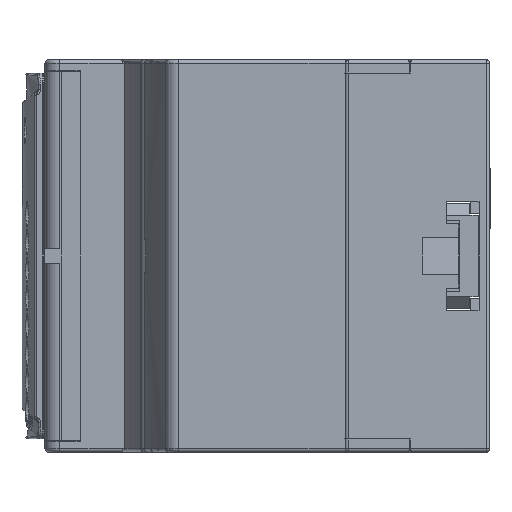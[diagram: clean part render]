
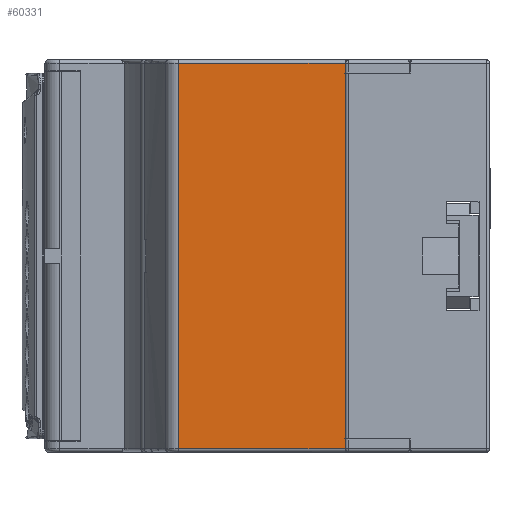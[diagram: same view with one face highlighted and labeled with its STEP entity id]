
A CAD part, left-side view. The second image highlights one B-rep face of the part: STEP entity #60331.
In plain terms, the highlighted planar face has unit normal (-1, 0.018, 0).
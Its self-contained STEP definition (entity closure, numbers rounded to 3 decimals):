
#6527=FACE_OUTER_BOUND('',#10160,.T.);
#10160=EDGE_LOOP('',(#54895,#54896,#54897,#54898));
#17042=LINE('',#108548,#24009);
#17118=LINE('',#108742,#24085);
#17130=LINE('',#108774,#24097);
#17131=LINE('',#108778,#24098);
#24009=VECTOR('',#80341,1.);
#24085=VECTOR('',#80531,1.);
#24097=VECTOR('',#80575,1.);
#24098=VECTOR('',#80582,1.);
#29526=VERTEX_POINT('',#108545);
#29527=VERTEX_POINT('',#108547);
#29578=VERTEX_POINT('',#108686);
#29588=VERTEX_POINT('',#108741);
#37914=EDGE_CURVE('',#29526,#29527,#17042,.T.);
#38014=EDGE_CURVE('',#29526,#29588,#17118,.T.);
#38031=EDGE_CURVE('',#29578,#29527,#17130,.T.);
#38032=EDGE_CURVE('',#29588,#29578,#17131,.T.);
#54895=ORIENTED_EDGE('',*,*,#38031,.T.);
#54896=ORIENTED_EDGE('',*,*,#37914,.F.);
#54897=ORIENTED_EDGE('',*,*,#38014,.T.);
#54898=ORIENTED_EDGE('',*,*,#38032,.T.);
#57233=PLANE('',#64908);
#60331=ADVANCED_FACE('',(#6527),#57233,.F.);
#64908=AXIS2_PLACEMENT_3D('',#108777,#80580,#80581);
#80341=DIRECTION('',(0.,0.,-1.));
#80531=DIRECTION('',(0.017,1.,0.));
#80575=DIRECTION('',(-0.017,-1.,0.));
#80580=DIRECTION('center_axis',(1.,-0.017,0.));
#80581=DIRECTION('ref_axis',(-0.017,-1.,0.));
#80582=DIRECTION('',(0.,0.,-1.));
#108545=CARTESIAN_POINT('',(-44.85,13.85,41.65));
#108547=CARTESIAN_POINT('',(-44.85,13.85,-10.95));
#108548=CARTESIAN_POINT('',(-44.85,13.85,125.8));
#108686=CARTESIAN_POINT('',(-44.453,36.571,-10.95));
#108741=CARTESIAN_POINT('',(-44.453,36.571,41.65));
#108742=CARTESIAN_POINT('',(-45.092,0.009,41.65));
#108774=CARTESIAN_POINT('',(-45.092,0.009,-10.95));
#108777=CARTESIAN_POINT('Origin',(-44.408,39.156,-16.81));
#108778=CARTESIAN_POINT('',(-44.453,36.571,24.15));
